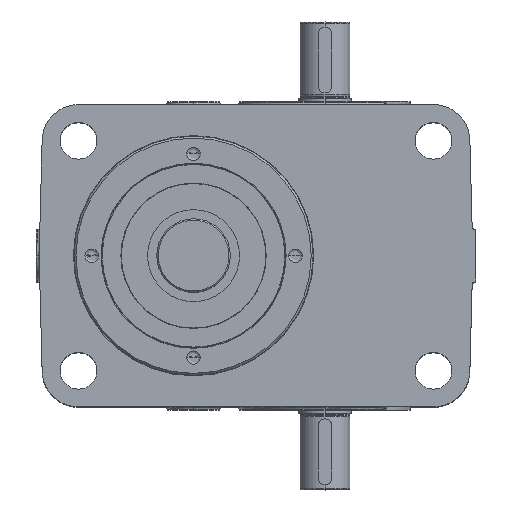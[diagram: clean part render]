
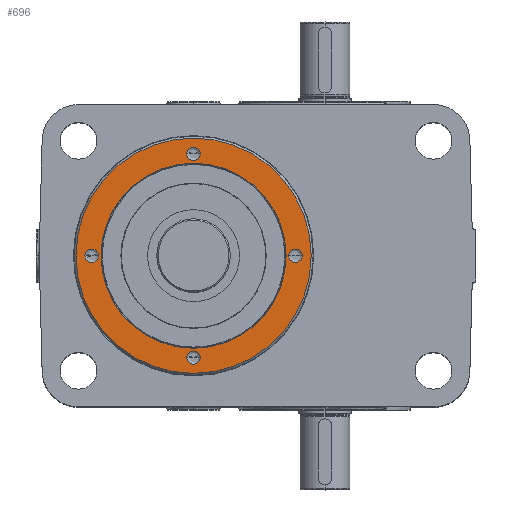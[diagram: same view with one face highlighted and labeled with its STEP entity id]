
A CAD part, top view. The second image highlights one B-rep face of the part: STEP entity #696.
In plain terms, the highlighted planar face has unit normal (0, 0, 1).
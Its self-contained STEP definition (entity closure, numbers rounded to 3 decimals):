
#696=ADVANCED_FACE('',(#2085,#2086,#2087,#2088,#2089,#2090),#2091,.T.);
#2085=FACE_BOUND('',#5335,.T.);
#2086=FACE_BOUND('',#5336,.T.);
#2087=FACE_BOUND('',#5337,.T.);
#2088=FACE_BOUND('',#5338,.T.);
#2089=FACE_BOUND('',#5339,.T.);
#2090=FACE_OUTER_BOUND('',#5340,.T.);
#2091=PLANE('',#5341);
#5335=EDGE_LOOP('',(#10058,#10059));
#5336=EDGE_LOOP('',(#10060,#10061));
#5337=EDGE_LOOP('',(#10062,#10063));
#5338=EDGE_LOOP('',(#10064,#10065));
#5339=EDGE_LOOP('',(#10066,#10067));
#5340=EDGE_LOOP('',(#10068,#10069));
#5341=AXIS2_PLACEMENT_3D('',#10070,#10071,#10072);
#10058=ORIENTED_EDGE('',*,*,#12919,.F.);
#10059=ORIENTED_EDGE('',*,*,#12860,.F.);
#10060=ORIENTED_EDGE('',*,*,#12920,.T.);
#10061=ORIENTED_EDGE('',*,*,#12850,.T.);
#10062=ORIENTED_EDGE('',*,*,#12921,.T.);
#10063=ORIENTED_EDGE('',*,*,#12844,.T.);
#10064=ORIENTED_EDGE('',*,*,#12922,.T.);
#10065=ORIENTED_EDGE('',*,*,#12838,.T.);
#10066=ORIENTED_EDGE('',*,*,#12923,.T.);
#10067=ORIENTED_EDGE('',*,*,#12832,.T.);
#10068=ORIENTED_EDGE('',*,*,#12918,.F.);
#10069=ORIENTED_EDGE('',*,*,#12868,.F.);
#10070=CARTESIAN_POINT('',(80.5,0.0,229.0));
#10071=DIRECTION('',(0.,0.0,1.0));
#10072=DIRECTION('',(-1.0,0.0,0.));
#12832=EDGE_CURVE('',#15611,#15608,#15612,.T.);
#12838=EDGE_CURVE('',#15622,#15619,#15623,.T.);
#12844=EDGE_CURVE('',#15633,#15630,#15634,.T.);
#12850=EDGE_CURVE('',#15644,#15641,#15645,.T.);
#12860=EDGE_CURVE('',#15659,#15661,#15662,.T.);
#12868=EDGE_CURVE('',#15673,#15675,#15676,.T.);
#12918=EDGE_CURVE('',#15675,#15673,#15755,.T.);
#12919=EDGE_CURVE('',#15661,#15659,#15756,.T.);
#12920=EDGE_CURVE('',#15641,#15644,#15757,.T.);
#12921=EDGE_CURVE('',#15630,#15633,#15758,.T.);
#12922=EDGE_CURVE('',#15619,#15622,#15759,.T.);
#12923=EDGE_CURVE('',#15608,#15611,#15760,.T.);
#15608=VERTEX_POINT('',#20837);
#15611=VERTEX_POINT('',#20841);
#15612=CIRCLE('',#20842,5.1);
#15619=VERTEX_POINT('',#20852);
#15622=VERTEX_POINT('',#20856);
#15623=CIRCLE('',#20857,5.1);
#15630=VERTEX_POINT('',#20867);
#15633=VERTEX_POINT('',#20871);
#15634=CIRCLE('',#20872,5.1);
#15641=VERTEX_POINT('',#20882);
#15644=VERTEX_POINT('',#20886);
#15645=CIRCLE('',#20887,5.1);
#15659=VERTEX_POINT('',#20906);
#15661=VERTEX_POINT('',#20909);
#15662=CIRCLE('',#20910,70.402);
#15673=VERTEX_POINT('',#20924);
#15675=VERTEX_POINT('',#20927);
#15676=CIRCLE('',#20928,89.5);
#15755=CIRCLE('',#21020,89.5);
#15756=CIRCLE('',#21021,70.402);
#15757=CIRCLE('',#21022,5.1);
#15758=CIRCLE('',#21023,5.1);
#15759=CIRCLE('',#21024,5.1);
#15760=CIRCLE('',#21025,5.1);
#20837=CARTESIAN_POINT('',(72.4,0.0,229.0));
#20841=CARTESIAN_POINT('',(82.6,0.,229.0));
#20842=AXIS2_PLACEMENT_3D('',#24070,#24071,#24072);
#20852=CARTESIAN_POINT('',(-5.1,-77.5,229.0));
#20856=CARTESIAN_POINT('',(5.1,-77.5,229.0));
#20857=AXIS2_PLACEMENT_3D('',#24080,#24081,#24082);
#20867=CARTESIAN_POINT('',(-82.6,0.0,229.0));
#20871=CARTESIAN_POINT('',(-72.4,0.,229.0));
#20872=AXIS2_PLACEMENT_3D('',#24090,#24091,#24092);
#20882=CARTESIAN_POINT('',(-5.1,77.5,229.0));
#20886=CARTESIAN_POINT('',(5.1,77.5,229.0));
#20887=AXIS2_PLACEMENT_3D('',#24100,#24101,#24102);
#20906=CARTESIAN_POINT('',(-70.402,0.,229.0));
#20909=CARTESIAN_POINT('',(70.402,0.,229.0));
#20910=AXIS2_PLACEMENT_3D('',#24118,#24119,#24120);
#20924=CARTESIAN_POINT('',(-89.5,0.,229.0));
#20927=CARTESIAN_POINT('',(89.5,0.,229.0));
#20928=AXIS2_PLACEMENT_3D('',#24134,#24135,#24136);
#21020=AXIS2_PLACEMENT_3D('',#24258,#24259,#24260);
#21021=AXIS2_PLACEMENT_3D('',#24261,#24262,#24263);
#21022=AXIS2_PLACEMENT_3D('',#24264,#24265,#24266);
#21023=AXIS2_PLACEMENT_3D('',#24267,#24268,#24269);
#21024=AXIS2_PLACEMENT_3D('',#24270,#24271,#24272);
#21025=AXIS2_PLACEMENT_3D('',#24273,#24274,#24275);
#24070=CARTESIAN_POINT('',(77.5,0.0,229.0));
#24071=DIRECTION('',(0.,0.0,-1.0));
#24072=DIRECTION('',(-1.0,0.0,0.));
#24080=CARTESIAN_POINT('',(0.,-77.5,229.0));
#24081=DIRECTION('',(0.,0.0,-1.0));
#24082=DIRECTION('',(-1.0,0.0,0.));
#24090=CARTESIAN_POINT('',(-77.5,0.0,229.0));
#24091=DIRECTION('',(0.,0.0,-1.0));
#24092=DIRECTION('',(-1.0,0.0,0.));
#24100=CARTESIAN_POINT('',(0.,77.5,229.0));
#24101=DIRECTION('',(0.,0.0,-1.0));
#24102=DIRECTION('',(-1.0,0.0,0.));
#24118=CARTESIAN_POINT('',(0.,0.0,229.0));
#24119=DIRECTION('',(0.,0.0,1.0));
#24120=DIRECTION('',(-1.0,0.0,0.));
#24134=CARTESIAN_POINT('',(0.,0.0,229.0));
#24135=DIRECTION('',(0.,0.0,-1.0));
#24136=DIRECTION('',(-1.0,0.0,0.));
#24258=CARTESIAN_POINT('',(0.,0.0,229.0));
#24259=DIRECTION('',(0.,0.0,-1.0));
#24260=DIRECTION('',(-1.0,0.0,0.));
#24261=CARTESIAN_POINT('',(0.,0.0,229.0));
#24262=DIRECTION('',(0.,0.0,1.0));
#24263=DIRECTION('',(-1.0,0.0,0.));
#24264=CARTESIAN_POINT('',(0.,77.5,229.0));
#24265=DIRECTION('',(0.,0.0,-1.0));
#24266=DIRECTION('',(-1.0,0.0,0.));
#24267=CARTESIAN_POINT('',(-77.5,0.0,229.0));
#24268=DIRECTION('',(0.,0.0,-1.0));
#24269=DIRECTION('',(-1.0,0.0,0.));
#24270=CARTESIAN_POINT('',(0.,-77.5,229.0));
#24271=DIRECTION('',(0.,0.0,-1.0));
#24272=DIRECTION('',(-1.0,0.0,0.));
#24273=CARTESIAN_POINT('',(77.5,0.0,229.0));
#24274=DIRECTION('',(0.,0.0,-1.0));
#24275=DIRECTION('',(-1.0,0.0,0.));
